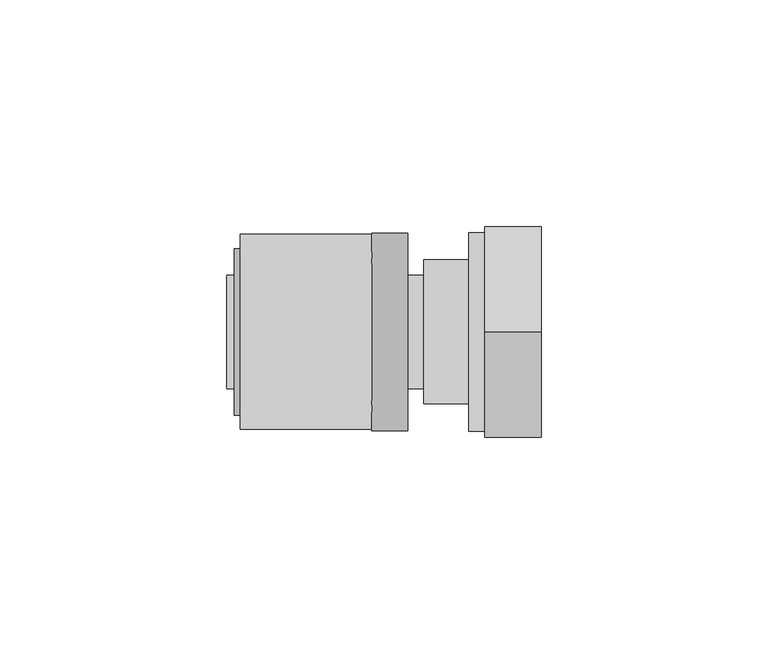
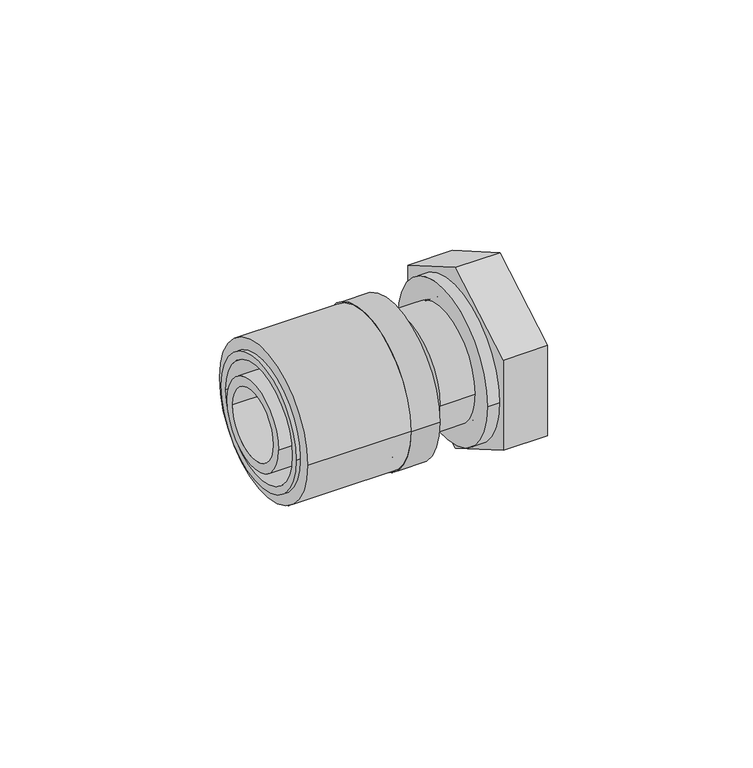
"""IFC4 building model written with IfcOpenShell, lengths in millimetres: pipe fitting geometry, FASTLOC_Adapter with union nut LX : FSL A union nut CZ."""

from ifc_helpers import new_model, si_unit, point, frame, origin, origin_2d, place, context, project, spatial, polyline, circle_curve, trimmed, segment, composite_curve, outline, extrude, source, transform, mapped, element, save
from ifc_brep_helpers import plane_surface, cylinder_surface, revolved_surface, advanced_brep


def pipe_fitting_bf755f27(model_context):
    return source(origin(), model_context, "Body", "SolidModel", [
        extrude(outline(composite_curve([segment(trimmed(circle_curve(origin_2d(), 21.5), [point((21.5, 0.0))], [point((-21.5, 0.0))], False, "CARTESIAN"), True, "CONTINUOUS"), segment(trimmed(circle_curve(origin_2d(), 21.5), [point((-21.5, 0.0))], [point((21.5, 0.0))], False, "CARTESIAN"), True, "CONTINUOUS")], self_intersect=False), holes=[composite_curve([segment(trimmed(circle_curve(origin_2d(), 16.85), [point((16.85, 0.0))], [point((-16.85, 0.0))], True, "CARTESIAN"), True, "CONTINUOUS"), segment(trimmed(circle_curve(origin_2d(), 16.85), [point((-16.85, 0.0))], [point((16.85, 0.0))], True, "CARTESIAN"), True, "CONTINUOUS")], self_intersect=False)]), frame((-40.5, 0.0, 0.0), z_axis=(1.0, 0.0, 0.0), x_axis=(0.0, 1.0, 0.0)), (0.0, 0.0, 1.0), 29.0),
        advanced_brep(
        [(-11.5, -21.8, 0.0), (-11.5, 21.8, 0.0), (-3.5, 21.8, 0.0), (-3.5, -21.8, 0.0), (-41.8, -18.35, 0.0), (-41.8, 18.35, 0.0), (-11.5, 18.35, 0.0), (-11.5, -18.35, 0.0), (-3.5, -16.2, 0.0), (-3.5, 16.2, 0.0), (-41.8, 16.2, 0.0), (-41.8, -16.2, 0.0)],
        [
            (0, 1, circle_curve(frame((-11.5, 0.0, 0.0), z_axis=(1.0, 0.0, 0.0), x_axis=(0.0, 1.0, 0.0)), 21.8)),
            (1, 2),
            (2, 3, circle_curve(frame((-3.5, 0.0, 0.0), z_axis=(-1.0, 0.0, 0.0), x_axis=(0.0, 1.0, 0.0)), 21.8)),
            (3, 0),
            (4, 5, circle_curve(frame((-41.8, 0.0, 0.0), z_axis=(1.0, 0.0, 0.0), x_axis=(0.0, 1.0, 0.0)), 18.35)),
            (5, 6),
            (6, 7, circle_curve(frame((-11.5, 0.0, 0.0), z_axis=(-1.0, 0.0, 0.0), x_axis=(0.0, 1.0, 0.0)), 18.35)),
            (7, 4),
            (8, 9, circle_curve(frame((-3.5, 0.0, 0.0), z_axis=(1.0, 0.0, 0.0), x_axis=(0.0, 1.0, 0.0)), 16.2)),
            (9, 10),
            (10, 11, circle_curve(frame((-41.8, 0.0, 0.0), z_axis=(-1.0, 0.0, 0.0), x_axis=(0.0, 1.0, 0.0)), 16.2)),
            (11, 8),
            (1, 0, circle_curve(frame((-11.5, 0.0, 0.0), z_axis=(1.0, 0.0, 0.0), x_axis=(0.0, -1.0, 0.0)), 21.8)),
            (3, 2, circle_curve(frame((-3.5, 0.0, 0.0), z_axis=(-1.0, 0.0, 0.0), x_axis=(0.0, -1.0, 0.0)), 21.8)),
            (6, 7, circle_curve(frame((-11.5, 0.0, 0.0), z_axis=(1.0, 0.0, 0.0), x_axis=(0.0, -1.0, 0.0)), 18.35)),
            (5, 4, circle_curve(frame((-41.8, 0.0, 0.0), z_axis=(1.0, 0.0, 0.0), x_axis=(0.0, -1.0, 0.0)), 18.35)),
            (10, 11, circle_curve(frame((-41.8, 0.0, 0.0), z_axis=(1.0, 0.0, 0.0), x_axis=(0.0, -1.0, 0.0)), 16.2)),
            (9, 8, circle_curve(frame((-3.5, 0.0, 0.0), z_axis=(1.0, 0.0, 0.0), x_axis=(0.0, -1.0, 0.0)), 16.2)),
        ],
        [
            cylinder_surface(frame((-3.5, 0.0, 0.0), z_axis=(-1.0, 0.0, 0.0), x_axis=(0.0, 1.0, 0.0)), 21.8),
            cylinder_surface(frame((-3.5, 0.0, 0.0), z_axis=(-1.0, 0.0, 0.0), x_axis=(0.0, 1.0, 0.0)), 18.35),
            revolved_surface(polyline([(-41.8, 16.2, 0.0), (-3.5, 16.2, 0.0)]), (-3.5, 0.0, 0.0), (-1.0, 0.0, 0.0)),
            cylinder_surface(frame((-3.5, 0.0, 0.0), z_axis=(-1.0, 0.0, 0.0), x_axis=(0.0, -1.0, 0.0)), 21.8),
            plane_surface(frame((-11.5, 0.0, 0.0), z_axis=(-1.0, 0.0, 0.0), x_axis=(0.0, -1.0, 0.0))),
            cylinder_surface(frame((-3.5, 0.0, 0.0), z_axis=(-1.0, 0.0, 0.0), x_axis=(0.0, -1.0, 0.0)), 18.35),
            plane_surface(frame((-41.8, 0.0, 0.0), z_axis=(-1.0, 0.0, 0.0), x_axis=(0.0, -1.0, 0.0))),
            revolved_surface(polyline([(-41.8, -16.2, 0.0), (-3.5, -16.2, 0.0)]), (-3.5, 0.0, 0.0), (-1.0, 0.0, 0.0)),
            plane_surface(frame((-3.5, 0.0, 0.0), z_axis=(1.0, 0.0, 0.0), x_axis=(0.0, -1.0, 0.0))),
        ],
        [
            (0, [[1, 2, 3, 4]]),
            (1, [[5, 6, 7, 8]]),
            (2, [[9, 10, 11, 12]]),
            (3, [[13, -4, 14, -2]]),
            (4, [[-13, -1], [15, -7]]),
            (5, [[16, -8, -15, -6]]),
            (6, [[-16, -5], [17, -11]]),
            (7, [[18, -12, -17, -10]]),
            (8, [[-14, -3], [-18, -9]]),
        ],
    ),
        advanced_brep(
        [(-11.5, 12.5, 0.0), (-11.5, -12.5, 0.0), (-43.5, -12.5, 0.0), (-43.5, 12.5, 0.0), (-8.5, 14.1, 0.0), (-8.5, -14.1, 0.0), (-11.5, -14.1, 0.0), (-11.5, 14.1, 0.0), (0.0, 12.5, 0.0), (0.0, -12.5, 0.0), (-8.5, -12.5, 0.0), (-8.5, 12.5, 0.0), (-43.5, 9.85, 0.0), (-43.5, -9.85, 0.0), (0.0, -9.85, 0.0), (0.0, 9.85, 0.0)],
        [
            (0, 1, circle_curve(frame((-11.5, 0.0, 0.0), z_axis=(-1.0, 0.0, 0.0), x_axis=(0.0, -1.0, 0.0)), 12.5)),
            (1, 2),
            (2, 3, circle_curve(frame((-43.5, 0.0, 0.0), z_axis=(1.0, 0.0, 0.0), x_axis=(0.0, -1.0, 0.0)), 12.5)),
            (3, 0),
            (4, 5, circle_curve(frame((-8.5, 0.0, 0.0), z_axis=(-1.0, 0.0, 0.0), x_axis=(0.0, -1.0, 0.0)), 14.1)),
            (5, 6),
            (6, 7, circle_curve(frame((-11.5, 0.0, 0.0), z_axis=(1.0, 0.0, 0.0), x_axis=(0.0, -1.0, 0.0)), 14.1)),
            (7, 4),
            (8, 9, circle_curve(frame((0.0, 0.0, 0.0), z_axis=(-1.0, 0.0, 0.0), x_axis=(0.0, -1.0, 0.0)), 12.5)),
            (9, 10),
            (10, 11, circle_curve(frame((-8.5, 0.0, 0.0), z_axis=(1.0, 0.0, 0.0), x_axis=(0.0, -1.0, 0.0)), 12.5)),
            (11, 8),
            (12, 13, circle_curve(frame((-43.5, 0.0, 0.0), z_axis=(-1.0, 0.0, 0.0), x_axis=(0.0, -1.0, 0.0)), 9.85)),
            (13, 14),
            (14, 15, circle_curve(frame((0.0, 0.0, 0.0), z_axis=(1.0, 0.0, 0.0), x_axis=(0.0, -1.0, 0.0)), 9.85)),
            (15, 12),
            (2, 3, circle_curve(frame((-43.5, 0.0, 0.0), z_axis=(-1.0, 0.0, 0.0), x_axis=(0.0, 1.0, 0.0)), 12.5)),
            (12, 13, circle_curve(frame((-43.5, 0.0, 0.0), z_axis=(1.0, 0.0, 0.0), x_axis=(0.0, 1.0, 0.0)), 9.85)),
            (1, 0, circle_curve(frame((-11.5, 0.0, 0.0), z_axis=(-1.0, 0.0, 0.0), x_axis=(0.0, 1.0, 0.0)), 12.5)),
            (6, 7, circle_curve(frame((-11.5, 0.0, 0.0), z_axis=(-1.0, 0.0, 0.0), x_axis=(0.0, 1.0, 0.0)), 14.1)),
            (5, 4, circle_curve(frame((-8.5, 0.0, 0.0), z_axis=(-1.0, 0.0, 0.0), x_axis=(0.0, 1.0, 0.0)), 14.1)),
            (10, 11, circle_curve(frame((-8.5, 0.0, 0.0), z_axis=(-1.0, 0.0, 0.0), x_axis=(0.0, 1.0, 0.0)), 12.5)),
            (9, 8, circle_curve(frame((0.0, 0.0, 0.0), z_axis=(-1.0, 0.0, 0.0), x_axis=(0.0, 1.0, 0.0)), 12.5)),
            (14, 15, circle_curve(frame((0.0, 0.0, 0.0), z_axis=(-1.0, 0.0, 0.0), x_axis=(0.0, 1.0, 0.0)), 9.85)),
        ],
        [
            cylinder_surface(frame((0.0, 0.0, 0.0), z_axis=(1.0, 0.0, 0.0), x_axis=(0.0, -1.0, 0.0)), 12.5),
            cylinder_surface(frame((0.0, 0.0, 0.0), z_axis=(1.0, 0.0, 0.0), x_axis=(0.0, -1.0, 0.0)), 14.1),
            revolved_surface(polyline([(0.0, -9.85, 0.0), (-43.5, -9.85, 0.0)]), (0.0, 0.0, 0.0), (1.0, 0.0, 0.0)),
            plane_surface(frame((-43.5, 0.0, 0.0), z_axis=(-1.0, 0.0, 0.0), x_axis=(0.0, 1.0, 0.0))),
            cylinder_surface(frame((0.0, 0.0, 0.0), z_axis=(1.0, 0.0, 0.0), x_axis=(0.0, 1.0, 0.0)), 12.5),
            plane_surface(frame((-11.5, 0.0, 0.0), z_axis=(-1.0, 0.0, 0.0), x_axis=(0.0, 1.0, 0.0))),
            cylinder_surface(frame((0.0, 0.0, 0.0), z_axis=(1.0, 0.0, 0.0), x_axis=(0.0, 1.0, 0.0)), 14.1),
            plane_surface(frame((-8.5, 0.0, 0.0), z_axis=(1.0, 0.0, 0.0), x_axis=(0.0, 1.0, 0.0))),
            plane_surface(frame((0.0, 0.0, 0.0), z_axis=(1.0, 0.0, 0.0), x_axis=(0.0, 1.0, 0.0))),
            revolved_surface(polyline([(0.0, 9.85, 0.0), (-43.5, 9.85, 0.0)]), (0.0, 0.0, 0.0), (1.0, 0.0, 0.0)),
        ],
        [
            (0, [[1, 2, 3, 4]]),
            (1, [[5, 6, 7, 8]]),
            (0, [[9, 10, 11, 12]]),
            (2, [[13, 14, 15, 16]]),
            (3, [[17, -3], [18, -13]]),
            (4, [[19, -4, -17, -2]]),
            (5, [[20, -7], [-19, -1]]),
            (6, [[21, -8, -20, -6]]),
            (7, [[-21, -5], [22, -11]]),
            (4, [[23, -12, -22, -10]]),
            (8, [[-23, -9], [24, -15]]),
            (9, [[-18, -16, -24, -14]]),
        ],
    ),
        extrude(outline(polyline([(0.0, -26.8467875), (-23.25, -13.4233938), (-23.25, 13.4233938), (0.0, 26.8467875), (23.25, 13.4233938), (23.25, -13.4233938), (0.0, -26.8467875)]), holes=[composite_curve([segment(trimmed(circle_curve(origin_2d(), 19.0), [point((-19.0, 0.0))], [point((19.0, 0.0))], True, "CARTESIAN"), True, "CONTINUOUS"), segment(trimmed(circle_curve(origin_2d(), 19.0), [point((19.0, 0.0))], [point((-19.0, 0.0))], True, "CARTESIAN"), True, "CONTINUOUS")], self_intersect=False)]), frame((13.5, 0.0, 0.0), z_axis=(1.0, 0.0, 0.0), x_axis=(0.0, 1.0, 0.0)), (0.0, 0.0, 1.0), 12.5),
        advanced_brep(
        [(26.0, 21.9, 0.0), (26.0, -21.9, 0.0), (10.0, -21.9, 0.0), (10.0, 21.9, 0.0), (13.5, 19.0, 0.0), (13.5, -19.0, 0.0), (26.0, -19.0, 0.0), (26.0, 19.0, 0.0), (10.0, 15.5, 0.0), (10.0, -15.5, 0.0), (13.5, -15.5, 0.0), (13.5, 15.5, 0.0)],
        [
            (0, 1, circle_curve(frame((26.0, 0.0, 0.0), z_axis=(-1.0, 0.0, 0.0), x_axis=(0.0, -1.0, 0.0)), 21.9)),
            (1, 2),
            (2, 3, circle_curve(frame((10.0, 0.0, 0.0), z_axis=(1.0, 0.0, 0.0), x_axis=(0.0, -1.0, 0.0)), 21.9)),
            (3, 0),
            (4, 5, circle_curve(frame((13.5, 0.0, 0.0), z_axis=(-1.0, 0.0, 0.0), x_axis=(0.0, -1.0, 0.0)), 19.0)),
            (5, 6),
            (6, 7, circle_curve(frame((26.0, 0.0, 0.0), z_axis=(1.0, 0.0, 0.0), x_axis=(0.0, -1.0, 0.0)), 19.0)),
            (7, 4),
            (8, 9, circle_curve(frame((10.0, 0.0, 0.0), z_axis=(-1.0, 0.0, 0.0), x_axis=(0.0, -1.0, 0.0)), 15.5)),
            (9, 10),
            (10, 11, circle_curve(frame((13.5, 0.0, 0.0), z_axis=(1.0, 0.0, 0.0), x_axis=(0.0, -1.0, 0.0)), 15.5)),
            (11, 8),
            (1, 0, circle_curve(frame((26.0, 0.0, 0.0), z_axis=(-1.0, 0.0, 0.0), x_axis=(0.0, 1.0, 0.0)), 21.9)),
            (3, 2, circle_curve(frame((10.0, 0.0, 0.0), z_axis=(1.0, 0.0, 0.0), x_axis=(0.0, 1.0, 0.0)), 21.9)),
            (6, 7, circle_curve(frame((26.0, 0.0, 0.0), z_axis=(-1.0, 0.0, 0.0), x_axis=(0.0, 1.0, 0.0)), 19.0)),
            (5, 4, circle_curve(frame((13.5, 0.0, 0.0), z_axis=(-1.0, 0.0, 0.0), x_axis=(0.0, 1.0, 0.0)), 19.0)),
            (10, 11, circle_curve(frame((13.5, 0.0, 0.0), z_axis=(-1.0, 0.0, 0.0), x_axis=(0.0, 1.0, 0.0)), 15.5)),
            (9, 8, circle_curve(frame((10.0, 0.0, 0.0), z_axis=(-1.0, 0.0, 0.0), x_axis=(0.0, 1.0, 0.0)), 15.5)),
        ],
        [
            cylinder_surface(frame((0.0, 0.0, 0.0), z_axis=(1.0, 0.0, 0.0), x_axis=(0.0, -1.0, 0.0)), 21.9),
            revolved_surface(polyline([(26.0, -19.0, 0.0), (13.5, -19.0, 0.0)]), (0.0, 0.0, 0.0), (1.0, 0.0, 0.0)),
            revolved_surface(polyline([(13.5, -15.5, 0.0), (10.0, -15.5, 0.0)]), (0.0, 0.0, 0.0), (1.0, 0.0, 0.0)),
            cylinder_surface(frame((0.0, 0.0, 0.0), z_axis=(1.0, 0.0, 0.0), x_axis=(0.0, 1.0, 0.0)), 21.9),
            plane_surface(frame((26.0, 0.0, 0.0), z_axis=(1.0, 0.0, 0.0), x_axis=(0.0, 1.0, 0.0))),
            revolved_surface(polyline([(26.0, 19.0, 0.0), (13.5, 19.0, 0.0)]), (0.0, 0.0, 0.0), (1.0, 0.0, 0.0)),
            plane_surface(frame((13.5, 0.0, 0.0), z_axis=(1.0, 0.0, 0.0), x_axis=(0.0, 1.0, 0.0))),
            revolved_surface(polyline([(13.5, 15.5, 0.0), (10.0, 15.5, 0.0)]), (0.0, 0.0, 0.0), (1.0, 0.0, 0.0)),
            plane_surface(frame((10.0, 0.0, 0.0), z_axis=(-1.0, 0.0, 0.0), x_axis=(0.0, 1.0, 0.0))),
        ],
        [
            (0, [[1, 2, 3, 4]]),
            (1, [[5, 6, 7, 8]]),
            (2, [[9, 10, 11, 12]]),
            (3, [[13, -4, 14, -2]]),
            (4, [[-13, -1], [15, -7]]),
            (5, [[16, -8, -15, -6]]),
            (6, [[-16, -5], [17, -11]]),
            (7, [[18, -12, -17, -10]]),
            (8, [[-14, -3], [-18, -9]]),
        ],
    ),
        advanced_brep(
        [(12.0, 15.9, 0.0), (12.0, -15.9, 0.0), (0.0, -15.9, 0.0), (0.0, 15.9, 0.0), (14.0, 20.0, 0.0), (14.0, -20.0, 0.0), (12.0, -20.0, 0.0), (12.0, 20.0, 0.0), (1.4730817, 14.15, 0.0), (1.4730817, -14.15, 0.0), (14.0, -14.15, 0.0), (14.0, 14.15, 0.0), (0.0, 11.9764556, 0.0), (0.0, -11.9764556, 0.0), (1.4730817, -11.9764556, 0.0), (1.4730817, 11.9764556, 0.0)],
        [
            (0, 1, circle_curve(frame((12.0, 0.0, 0.0), z_axis=(-1.0, 0.0, 0.0), x_axis=(0.0, -1.0, 0.0)), 15.9)),
            (1, 2),
            (2, 3, circle_curve(frame((0.0, 0.0, 0.0), z_axis=(1.0, 0.0, 0.0), x_axis=(0.0, -1.0, 0.0)), 15.9)),
            (3, 0),
            (4, 5, circle_curve(frame((14.0, 0.0, 0.0), z_axis=(-1.0, 0.0, 0.0), x_axis=(0.0, -1.0, 0.0)), 20.0)),
            (5, 6),
            (6, 7, circle_curve(frame((12.0, 0.0, 0.0), z_axis=(1.0, 0.0, 0.0), x_axis=(0.0, -1.0, 0.0)), 20.0)),
            (7, 4),
            (8, 9, circle_curve(frame((1.4730817, 0.0, 0.0), z_axis=(-1.0, 0.0, 0.0), x_axis=(0.0, -1.0, 0.0)), 14.15)),
            (9, 10),
            (10, 11, circle_curve(frame((14.0, 0.0, 0.0), z_axis=(1.0, 0.0, 0.0), x_axis=(0.0, -1.0, 0.0)), 14.15)),
            (11, 8),
            (12, 13, circle_curve(frame((0.0, 0.0, 0.0), z_axis=(-1.0, 0.0, 0.0), x_axis=(0.0, -1.0, 0.0)), 11.9764556)),
            (13, 14),
            (14, 15, circle_curve(frame((1.4730817, 0.0, 0.0), z_axis=(1.0, 0.0, 0.0), x_axis=(0.0, -1.0, 0.0)), 11.9764556)),
            (15, 12),
            (2, 3, circle_curve(frame((0.0, 0.0, 0.0), z_axis=(-1.0, 0.0, 0.0), x_axis=(0.0, 1.0, 0.0)), 15.9)),
            (12, 13, circle_curve(frame((0.0, 0.0, 0.0), z_axis=(1.0, 0.0, 0.0), x_axis=(0.0, 1.0, 0.0)), 11.9764556)),
            (1, 0, circle_curve(frame((12.0, 0.0, 0.0), z_axis=(-1.0, 0.0, 0.0), x_axis=(0.0, 1.0, 0.0)), 15.9)),
            (6, 7, circle_curve(frame((12.0, 0.0, 0.0), z_axis=(-1.0, 0.0, 0.0), x_axis=(0.0, 1.0, 0.0)), 20.0)),
            (5, 4, circle_curve(frame((14.0, 0.0, 0.0), z_axis=(-1.0, 0.0, 0.0), x_axis=(0.0, 1.0, 0.0)), 20.0)),
            (10, 11, circle_curve(frame((14.0, 0.0, 0.0), z_axis=(-1.0, 0.0, 0.0), x_axis=(0.0, 1.0, 0.0)), 14.15)),
            (9, 8, circle_curve(frame((1.4730817, 0.0, 0.0), z_axis=(-1.0, 0.0, 0.0), x_axis=(0.0, 1.0, 0.0)), 14.15)),
            (14, 15, circle_curve(frame((1.4730817, 0.0, 0.0), z_axis=(-1.0, 0.0, 0.0), x_axis=(0.0, 1.0, 0.0)), 11.9764556)),
        ],
        [
            cylinder_surface(frame((0.0, 0.0, 0.0), z_axis=(1.0, 0.0, 0.0), x_axis=(0.0, -1.0, 0.0)), 15.9),
            cylinder_surface(frame((0.0, 0.0, 0.0), z_axis=(1.0, 0.0, 0.0), x_axis=(0.0, -1.0, 0.0)), 20.0),
            revolved_surface(polyline([(14.0, -14.15, 0.0), (1.4730817, -14.15, 0.0)]), (0.0, 0.0, 0.0), (1.0, 0.0, 0.0)),
            revolved_surface(polyline([(1.4730817, -11.9764556, 0.0), (0.0, -11.9764556, 0.0)]), (0.0, 0.0, 0.0), (1.0, 0.0, 0.0)),
            plane_surface(frame((0.0, 0.0, 0.0), z_axis=(-1.0, 0.0, 0.0), x_axis=(0.0, 1.0, 0.0))),
            cylinder_surface(frame((0.0, 0.0, 0.0), z_axis=(1.0, 0.0, 0.0), x_axis=(0.0, 1.0, 0.0)), 15.9),
            plane_surface(frame((12.0, 0.0, 0.0), z_axis=(-1.0, 0.0, 0.0), x_axis=(0.0, 1.0, 0.0))),
            cylinder_surface(frame((0.0, 0.0, 0.0), z_axis=(1.0, 0.0, 0.0), x_axis=(0.0, 1.0, 0.0)), 20.0),
            plane_surface(frame((14.0, 0.0, 0.0), z_axis=(1.0, 0.0, 0.0), x_axis=(0.0, 1.0, 0.0))),
            revolved_surface(polyline([(14.0, 14.15, 0.0), (1.4730817, 14.15, 0.0)]), (0.0, 0.0, 0.0), (1.0, 0.0, 0.0)),
            plane_surface(frame((1.4730817, 0.0, 0.0), z_axis=(1.0, 0.0, 0.0), x_axis=(0.0, 1.0, 0.0))),
            revolved_surface(polyline([(1.4730817, 11.9764556, 0.0), (0.0, 11.9764556, 0.0)]), (0.0, 0.0, 0.0), (1.0, 0.0, 0.0)),
        ],
        [
            (0, [[1, 2, 3, 4]]),
            (1, [[5, 6, 7, 8]]),
            (2, [[9, 10, 11, 12]]),
            (3, [[13, 14, 15, 16]]),
            (4, [[17, -3], [18, -13]]),
            (5, [[19, -4, -17, -2]]),
            (6, [[20, -7], [-19, -1]]),
            (7, [[21, -8, -20, -6]]),
            (8, [[-21, -5], [22, -11]]),
            (9, [[23, -12, -22, -10]]),
            (10, [[-23, -9], [24, -15]]),
            (11, [[-18, -16, -24, -14]]),
        ],
    ),
    ])


if __name__ == "__main__":
    model = new_model("IFC4")
    model_context = context("Model", 3, world=origin())
    ifc_project = project(units=[si_unit("LENGTHUNIT", "METRE", prefix="MILLI")], contexts=[model_context])
    site = spatial("IfcSite", under=ifc_project)
    building = spatial("IfcBuilding", under=site)
    placement = place(None, origin())
    pipe_fitting_shape = pipe_fitting_bf755f27(model_context)
    element("IfcPipeFitting", 1, ObjectType="FASTLOC_Adapter with union nut LX : FSL A union nut CZ", at=placement, inside=building, context=model_context, shape_type="MappedRepresentation", body=[
        mapped(pipe_fitting_shape, transform((0.0, 0.0, 0.0), x_axis=(1.0, 0.0, 0.0), y_axis=(0.0, 1.0, 0.0), z_axis=(0.0, 0.0, 1.0))),
    ])
    save(model, "model.ifc")
